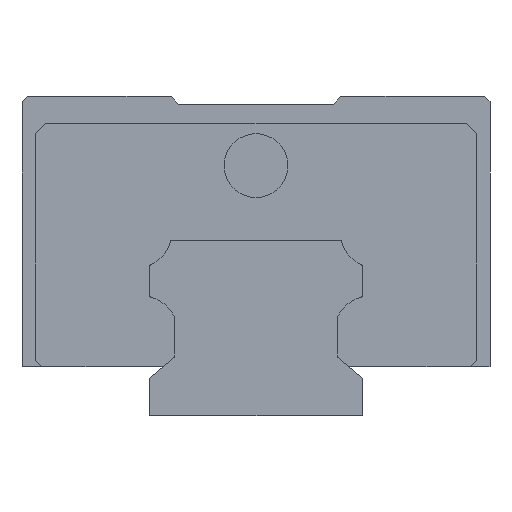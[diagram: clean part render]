
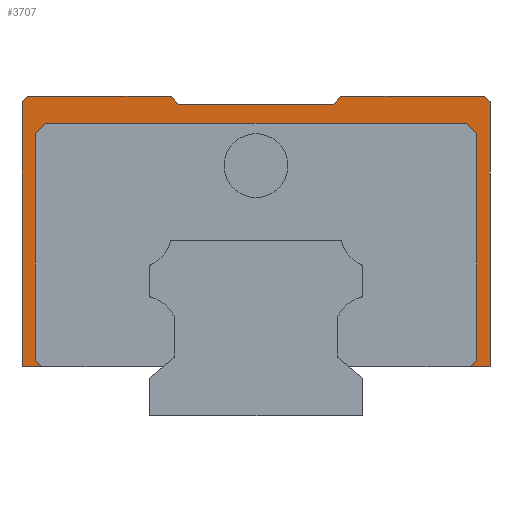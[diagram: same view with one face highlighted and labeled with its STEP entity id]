
A CAD part, left-side view. The second image highlights one B-rep face of the part: STEP entity #3707.
In plain terms, the highlighted planar face has unit normal (-1, 0, 0).
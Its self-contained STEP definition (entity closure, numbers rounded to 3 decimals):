
#12 = LINE ( 'NONE', #6039, #6036 ) ;
#115 = CARTESIAN_POINT ( 'NONE',  ( -27., -7.333, 29.25 ) ) ;
#120 = VECTOR ( 'NONE', #1841, 1000. ) ;
#129 = EDGE_CURVE ( 'NONE', #2702, #1940, #4314, .T. ) ;
#215 = VECTOR ( 'NONE', #4100, 1000. ) ;
#267 = ORIENTED_EDGE ( 'NONE', *, *, #2529, .F. ) ;
#268 = LINE ( 'NONE', #3606, #1510 ) ;
#364 = DIRECTION ( 'NONE',  ( 0., 0., 1. ) ) ;
#380 = CARTESIAN_POINT ( 'NONE',  ( -27., 19.75, 27.5 ) ) ;
#429 = LINE ( 'NONE', #460, #1744 ) ;
#460 = CARTESIAN_POINT ( 'NONE',  ( -27., 22., 4.6 ) ) ;
#479 = VERTEX_POINT ( 'NONE', #5898 ) ;
#503 = ORIENTED_EDGE ( 'NONE', *, *, #4638, .F. ) ;
#571 = DIRECTION ( 'NONE',  ( 0., 0.707, -0.707 ) ) ;
#591 = VECTOR ( 'NONE', #4905, 1000. ) ;
#623 = DIRECTION ( 'NONE',  ( 0., -0.707, -0.707 ) ) ;
#732 = VERTEX_POINT ( 'NONE', #4325 ) ;
#776 = VECTOR ( 'NONE', #3868, 1000. ) ;
#864 = ORIENTED_EDGE ( 'NONE', *, *, #2118, .F. ) ;
#874 = VERTEX_POINT ( 'NONE', #115 ) ;
#967 = EDGE_CURVE ( 'NONE', #2888, #1821, #5864, .T. ) ;
#979 = CARTESIAN_POINT ( 'NONE',  ( -27., 20.15, 4.6 ) ) ;
#991 = VERTEX_POINT ( 'NONE', #2939 ) ;
#1055 = DIRECTION ( 'NONE',  ( 0., 1., 0. ) ) ;
#1091 = CARTESIAN_POINT ( 'NONE',  ( -27., 11.775, -3.775 ) ) ;
#1103 = EDGE_CURVE ( 'NONE', #5252, #4872, #2683, .T. ) ;
#1123 = EDGE_CURVE ( 'NONE', #6094, #4209, #268, .T. ) ;
#1166 = VERTEX_POINT ( 'NONE', #3264 ) ;
#1182 = CARTESIAN_POINT ( 'NONE',  ( -27., 22., 4.6 ) ) ;
#1213 = DIRECTION ( 'NONE',  ( 0., 0., -1. ) ) ;
#1218 = LINE ( 'NONE', #2029, #6048 ) ;
#1221 = DIRECTION ( 'NONE',  ( 0., 0.643, -0.766 ) ) ;
#1233 = DIRECTION ( 'NONE',  ( 0., -1., 0. ) ) ;
#1244 = EDGE_CURVE ( 'NONE', #6094, #1166, #1927, .T. ) ;
#1367 = DIRECTION ( 'NONE',  ( 0., 1., 0. ) ) ;
#1386 = CARTESIAN_POINT ( 'NONE',  ( -27., -22., 29.5 ) ) ;
#1458 = DIRECTION ( 'NONE',  ( 0., 0.707, -0.707 ) ) ;
#1470 = DIRECTION ( 'NONE',  ( 1., 0., 0. ) ) ;
#1475 = EDGE_CURVE ( 'NONE', #2147, #5252, #3185, .T. ) ;
#1505 = CARTESIAN_POINT ( 'NONE',  ( -27., -21.5, 30. ) ) ;
#1509 = LINE ( 'NONE', #5265, #4335 ) ;
#1510 = VECTOR ( 'NONE', #1233, 1000. ) ;
#1548 = ORIENTED_EDGE ( 'NONE', *, *, #4519, .T. ) ;
#1564 = CARTESIAN_POINT ( 'NONE',  ( -27., -20.15, 4.6 ) ) ;
#1593 = AXIS2_PLACEMENT_3D ( 'NONE', #5625, #1470, #1367 ) ;
#1647 = LINE ( 'NONE', #5370, #5984 ) ;
#1677 = LINE ( 'NONE', #5433, #3610 ) ;
#1706 = EDGE_CURVE ( 'NONE', #732, #2888, #5255, .T. ) ;
#1718 = ORIENTED_EDGE ( 'NONE', *, *, #129, .F. ) ;
#1744 = VECTOR ( 'NONE', #364, 1000. ) ;
#1821 = VERTEX_POINT ( 'NONE', #1182 ) ;
#1835 = EDGE_CURVE ( 'NONE', #1940, #732, #1677, .T. ) ;
#1841 = DIRECTION ( 'NONE',  ( 0., 1., 0. ) ) ;
#1852 = VECTOR ( 'NONE', #623, 1000. ) ;
#1927 = LINE ( 'NONE', #5679, #2291 ) ;
#1940 = VERTEX_POINT ( 'NONE', #4627 ) ;
#1984 = CARTESIAN_POINT ( 'NONE',  ( -27., -20.75, 30. ) ) ;
#1989 = EDGE_CURVE ( 'NONE', #1821, #1166, #429, .T. ) ;
#2029 = CARTESIAN_POINT ( 'NONE',  ( -27., 7.333, 29.25 ) ) ;
#2118 = EDGE_CURVE ( 'NONE', #6113, #2147, #1647, .T. ) ;
#2147 = VERTEX_POINT ( 'NONE', #3518 ) ;
#2176 = CARTESIAN_POINT ( 'NONE',  ( -27., -7.963, 30. ) ) ;
#2179 = VECTOR ( 'NONE', #1055, 1000. ) ;
#2291 = VECTOR ( 'NONE', #1458, 1000. ) ;
#2339 = DIRECTION ( 'NONE',  ( 0., 0.707, 0.707 ) ) ;
#2377 = ORIENTED_EDGE ( 'NONE', *, *, #1989, .F. ) ;
#2466 = CARTESIAN_POINT ( 'NONE',  ( -27., 7.963, 30. ) ) ;
#2506 = EDGE_LOOP ( 'NONE', ( #3558, #4666, #1718, #503, #4189, #267, #4277, #5801, #864, #1548, #2990, #2651, #2614, #5094, #5736, #3850, #2377, #4338 ) ) ;
#2529 = EDGE_CURVE ( 'NONE', #4872, #5502, #5242, .T. ) ;
#2567 = CARTESIAN_POINT ( 'NONE',  ( -27., -19.625, 27.625 ) ) ;
#2593 = CARTESIAN_POINT ( 'NONE',  ( -27., 9., 4.6 ) ) ;
#2614 = ORIENTED_EDGE ( 'NONE', *, *, #3812, .T. ) ;
#2651 = ORIENTED_EDGE ( 'NONE', *, *, #6016, .T. ) ;
#2683 = LINE ( 'NONE', #3578, #215 ) ;
#2702 = VERTEX_POINT ( 'NONE', #380 ) ;
#2723 = PLANE ( 'NONE',  #1593 ) ;
#2766 = DIRECTION ( 'NONE',  ( 0., -1., 0. ) ) ;
#2868 = DIRECTION ( 'NONE',  ( 0., 1., 0. ) ) ;
#2888 = VERTEX_POINT ( 'NONE', #979 ) ;
#2931 = CARTESIAN_POINT ( 'NONE',  ( -27., -20.75, 26.5 ) ) ;
#2939 = CARTESIAN_POINT ( 'NONE',  ( -27., -7.963, 30. ) ) ;
#2990 = ORIENTED_EDGE ( 'NONE', *, *, #5789, .F. ) ;
#3185 = LINE ( 'NONE', #3247, #120 ) ;
#3247 = CARTESIAN_POINT ( 'NONE',  ( -27., -22., 4.6 ) ) ;
#3264 = CARTESIAN_POINT ( 'NONE',  ( -27., 22., 29.5 ) ) ;
#3518 = CARTESIAN_POINT ( 'NONE',  ( -27., -22., 4.6 ) ) ;
#3558 = ORIENTED_EDGE ( 'NONE', *, *, #1706, .F. ) ;
#3578 = CARTESIAN_POINT ( 'NONE',  ( -27., -33.775, 18.225 ) ) ;
#3606 = CARTESIAN_POINT ( 'NONE',  ( -27., 22., 30. ) ) ;
#3610 = VECTOR ( 'NONE', #1213, 1000. ) ;
#3659 = VECTOR ( 'NONE', #1221, 1000. ) ;
#3707 = ADVANCED_FACE ( 'NONE', ( #4691 ), #2723, .F. ) ;
#3812 = EDGE_CURVE ( 'NONE', #874, #479, #5280, .T. ) ;
#3850 = ORIENTED_EDGE ( 'NONE', *, *, #1244, .T. ) ;
#3868 = DIRECTION ( 'NONE',  ( 0., 1., 0. ) ) ;
#3906 = DIRECTION ( 'NONE',  ( 0., 0.643, 0.766 ) ) ;
#3916 = CARTESIAN_POINT ( 'NONE',  ( -27., -2.375, 49.625 ) ) ;
#3992 = EDGE_CURVE ( 'NONE', #5502, #5672, #4044, .T. ) ;
#3998 = CARTESIAN_POINT ( 'NONE',  ( -27., -22., 29.5 ) ) ;
#4044 = LINE ( 'NONE', #2567, #591 ) ;
#4100 = DIRECTION ( 'NONE',  ( 0., -0.707, 0.707 ) ) ;
#4189 = ORIENTED_EDGE ( 'NONE', *, *, #3992, .F. ) ;
#4209 = VERTEX_POINT ( 'NONE', #2466 ) ;
#4277 = ORIENTED_EDGE ( 'NONE', *, *, #1103, .F. ) ;
#4314 = LINE ( 'NONE', #3916, #5792 ) ;
#4325 = CARTESIAN_POINT ( 'NONE',  ( -27., 20.75, 5.2 ) ) ;
#4335 = VECTOR ( 'NONE', #2868, 1000. ) ;
#4338 = ORIENTED_EDGE ( 'NONE', *, *, #967, .F. ) ;
#4415 = DIRECTION ( 'NONE',  ( 0., 0., -1. ) ) ;
#4488 = CARTESIAN_POINT ( 'NONE',  ( -27., 21.5, 30. ) ) ;
#4519 = EDGE_CURVE ( 'NONE', #6113, #5077, #6076, .T. ) ;
#4627 = CARTESIAN_POINT ( 'NONE',  ( -27., 20.75, 26.5 ) ) ;
#4638 = EDGE_CURVE ( 'NONE', #5672, #2702, #1509, .T. ) ;
#4666 = ORIENTED_EDGE ( 'NONE', *, *, #1835, .F. ) ;
#4691 = FACE_OUTER_BOUND ( 'NONE', #2506, .T. ) ;
#4824 = VECTOR ( 'NONE', #2339, 1000. ) ;
#4872 = VERTEX_POINT ( 'NONE', #5385 ) ;
#4905 = DIRECTION ( 'NONE',  ( 0., 0.707, 0.707 ) ) ;
#4967 = LINE ( 'NONE', #2176, #3659 ) ;
#5077 = VERTEX_POINT ( 'NONE', #1505 ) ;
#5094 = ORIENTED_EDGE ( 'NONE', *, *, #5304, .T. ) ;
#5242 = LINE ( 'NONE', #1984, #5992 ) ;
#5252 = VERTEX_POINT ( 'NONE', #1564 ) ;
#5255 = LINE ( 'NONE', #1091, #1852 ) ;
#5265 = CARTESIAN_POINT ( 'NONE',  ( -27., -22., 27.5 ) ) ;
#5280 = LINE ( 'NONE', #5309, #2179 ) ;
#5304 = EDGE_CURVE ( 'NONE', #479, #4209, #1218, .T. ) ;
#5309 = CARTESIAN_POINT ( 'NONE',  ( -27., -7.333, 29.25 ) ) ;
#5370 = CARTESIAN_POINT ( 'NONE',  ( -27., -22., 28. ) ) ;
#5385 = CARTESIAN_POINT ( 'NONE',  ( -27., -20.75, 5.2 ) ) ;
#5433 = CARTESIAN_POINT ( 'NONE',  ( -27., 20.75, 30. ) ) ;
#5502 = VERTEX_POINT ( 'NONE', #2931 ) ;
#5625 = CARTESIAN_POINT ( 'NONE',  ( -27., -22., 30. ) ) ;
#5672 = VERTEX_POINT ( 'NONE', #5883 ) ;
#5679 = CARTESIAN_POINT ( 'NONE',  ( -27., 21.5, 30. ) ) ;
#5736 = ORIENTED_EDGE ( 'NONE', *, *, #1123, .F. ) ;
#5789 = EDGE_CURVE ( 'NONE', #991, #5077, #12, .T. ) ;
#5792 = VECTOR ( 'NONE', #571, 1000. ) ;
#5801 = ORIENTED_EDGE ( 'NONE', *, *, #1475, .F. ) ;
#5864 = LINE ( 'NONE', #2593, #776 ) ;
#5883 = CARTESIAN_POINT ( 'NONE',  ( -27., -19.75, 27.5 ) ) ;
#5886 = DIRECTION ( 'NONE',  ( 0., 0., 1. ) ) ;
#5898 = CARTESIAN_POINT ( 'NONE',  ( -27., 7.333, 29.25 ) ) ;
#5984 = VECTOR ( 'NONE', #4415, 1000. ) ;
#5992 = VECTOR ( 'NONE', #5886, 1000. ) ;
#6016 = EDGE_CURVE ( 'NONE', #991, #874, #4967, .T. ) ;
#6036 = VECTOR ( 'NONE', #2766, 1000. ) ;
#6039 = CARTESIAN_POINT ( 'NONE',  ( -27., 22., 30. ) ) ;
#6048 = VECTOR ( 'NONE', #3906, 1000. ) ;
#6076 = LINE ( 'NONE', #1386, #4824 ) ;
#6094 = VERTEX_POINT ( 'NONE', #4488 ) ;
#6113 = VERTEX_POINT ( 'NONE', #3998 ) ;
